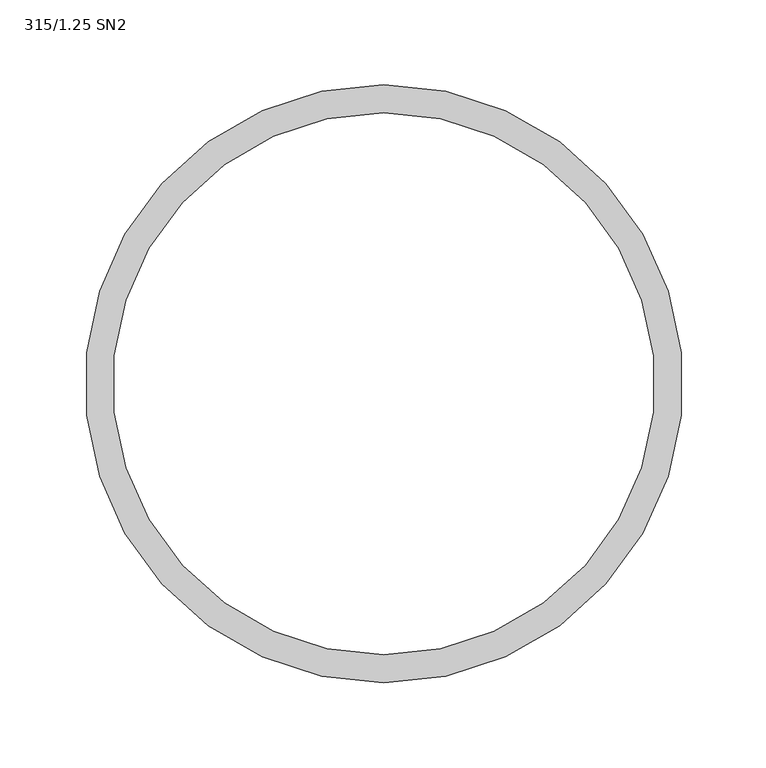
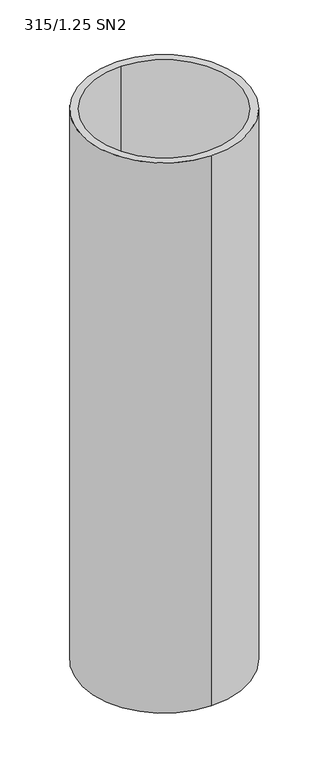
"""IFC4 building model written with IfcOpenShell, lengths in millimetres: valve geometry, Pipelife - Studnia PRO - Rura trzonowa 315 : 315/1.25 SN2."""

import ifcopenshell
import ifcopenshell.guid

model = None  # the IFC model being written
_history = None  # IfcOwnerHistory: only IFC2X3 demands one
_inside = {}  # id of a spatial element -> (the spatial element, [elements in it])
_under = {}  # id of a project, library or spatial element -> (it, [spatial elements below it])
_declared = {}  # id of a project -> (the project, [libraries it declares])
_typed = {}  # id of a type object -> (the type object, [elements of that type])
_made_of = {}  # id of a material, layer set ... -> (it, [elements and type objects made of it])


def new_model(schema):
    """Start an empty IFC model of exactly this schema.

    Asked for "IFC4X3", IfcOpenShell would pick the latest addendum, in which some entities
    have other attributes; the version numbers below select the first issue.
    IFC2X3 requires an IfcOwnerHistory on every rooted entity: one is made here for all.
    """
    global model, _history
    if schema == "IFC4X3":
        model = ifcopenshell.file(schema_version=(4, 3, 0, 0))
    else:
        model = ifcopenshell.file(schema=schema)
    _inside.clear()
    _under.clear()
    _declared.clear()
    _typed.clear()
    _made_of.clear()
    _history = None
    if model.schema == "IFC2X3":
        org = make("IfcOrganization", Name="unknown")
        user = make(
            "IfcPersonAndOrganization",
            ThePerson=make("IfcPerson", FamilyName="unknown"),
            TheOrganization=org,
        )
        app = make(
            "IfcApplication",
            ApplicationDeveloper=org,
            Version="unknown",
            ApplicationFullName="unknown",
            ApplicationIdentifier="unknown",
        )
        _history = make(
            "IfcOwnerHistory",
            OwningUser=user,
            OwningApplication=app,
            ChangeAction="ADDED",
            CreationDate=0,
        )
    return model


def make(cls, **values):
    """One entity of the class cls with the attributes given. An attribute that is None is left unset."""
    return model.create_entity(
        cls, **{name: value for name, value in values.items() if value is not None}
    )


def rooted(cls, **values):
    """An entity with a GlobalId (a new one), such as an element, a storey or a relation."""
    return make(cls, GlobalId=ifcopenshell.guid.new(), OwnerHistory=_history, **values)


def si_unit(unit_type, name, prefix=None):
    """IfcSIUnit, for example si_unit("LENGTHUNIT", "METRE", prefix="MILLI")."""
    return make("IfcSIUnit", UnitType=unit_type, Prefix=prefix, Name=name)


def assignment(units):
    """IfcUnitAssignment: the units of a project."""
    return None if units is None else make("IfcUnitAssignment", Units=units)


def point(xyz):
    """IfcCartesianPoint."""
    return None if xyz is None else make("IfcCartesianPoint", Coordinates=xyz)


def direction(xyz):
    """IfcDirection."""
    return None if xyz is None else make("IfcDirection", DirectionRatios=xyz)


def frame(location, z_axis=None, x_axis=None):
    """IfcAxis2Placement3D, a coordinate frame: its origin and axes. An axis left out is left unset."""
    return make(
        "IfcAxis2Placement3D",
        Location=point(location),
        Axis=direction(z_axis),
        RefDirection=direction(x_axis),
    )


def frame_2d(location, x_axis=None):
    """IfcAxis2Placement2D, a coordinate frame in the plane: its origin and x axis."""
    return make(
        "IfcAxis2Placement2D", Location=point(location), RefDirection=direction(x_axis)
    )


def origin():
    """The frame at (0, 0, 0) with its axes left unset."""
    return frame((0.0, 0.0, 0.0))


def origin_with_axes():
    """The frame at (0, 0, 0) with the z axis (0, 0, 1) and the x axis (1, 0, 0) written out."""
    return frame((0.0, 0.0, 0.0), z_axis=(0.0, 0.0, 1.0), x_axis=(1.0, 0.0, 0.0))


def origin_2d():
    """The frame at (0, 0) in the plane with its x axis left unset."""
    return frame_2d((0.0, 0.0))


def place(relative_to, where):
    """IfcLocalPlacement: puts the frame where relative to a parent placement (None: the world)."""
    return make(
        "IfcLocalPlacement", PlacementRelTo=relative_to, RelativePlacement=where
    )


def context(
    kind, dimensions, precision=None, world=None, true_north=None, identifier=None
):
    """IfcGeometricRepresentationContext, for example the 3D "Model" context."""
    return make(
        "IfcGeometricRepresentationContext",
        ContextIdentifier=identifier,
        ContextType=kind,
        CoordinateSpaceDimension=dimensions,
        Precision=precision,
        WorldCoordinateSystem=world,
        TrueNorth=true_north,
    )


def project(units=None, contexts=None):
    """IfcProject with its units and contexts."""
    return rooted(
        "IfcProject",
        Name="project",
        RepresentationContexts=contexts,
        UnitsInContext=assignment(units),
    )


def spatial(cls, under=None, at=None, **own):
    """A site, building, storey or space (cls), placed at a placement, below another one or the project."""
    s = rooted(cls, ObjectPlacement=at, **own)
    if under is not None:
        _under.setdefault(under.id(), (under, []))[1].append(s)
    return s


def circle_curve(where, radius):
    """IfcCircle in the frame where."""
    return make("IfcCircle", Position=where, Radius=radius)


def trimmed(basis, trim1, trim2, sense, master):
    """IfcTrimmedCurve: the piece of a basis curve between two trims."""
    return make(
        "IfcTrimmedCurve",
        BasisCurve=basis,
        Trim1=trim1,
        Trim2=trim2,
        SenseAgreement=sense,
        MasterRepresentation=master,
    )


def segment(curve, same_sense, transition):
    """IfcCompositeCurveSegment."""
    return make(
        "IfcCompositeCurveSegment",
        Transition=transition,
        SameSense=same_sense,
        ParentCurve=curve,
    )


def composite_curve(segments, self_intersect=None):
    """IfcCompositeCurve: segments joined end to end."""
    return make("IfcCompositeCurve", Segments=segments, SelfIntersect=self_intersect)


def outline(outer, holes=None, kind="AREA"):
    """IfcArbitraryClosedProfileDef: a profile drawn as a closed curve; with holes, ...WithVoids."""
    if holes is None:
        return make("IfcArbitraryClosedProfileDef", ProfileType=kind, OuterCurve=outer)
    return make(
        "IfcArbitraryProfileDefWithVoids",
        ProfileType=kind,
        OuterCurve=outer,
        InnerCurves=holes,
    )


def extrude(swept, where, along, depth):
    """IfcExtrudedAreaSolid: the profile swept, set in the frame where, extruded along a direction by depth."""
    return make(
        "IfcExtrudedAreaSolid",
        SweptArea=swept,
        Position=where,
        ExtrudedDirection=direction(along),
        Depth=depth,
    )


def shape(context_of_items, identifier, shape_type, items):
    """IfcShapeRepresentation: the items that make up one representation, for example the "Body"."""
    return make(
        "IfcShapeRepresentation",
        ContextOfItems=context_of_items,
        RepresentationIdentifier=identifier,
        RepresentationType=shape_type,
        Items=items,
    )


def source(mapping_origin, context_of_items, identifier, shape_type, items):
    """IfcRepresentationMap: a shape defined once, which mapped items show again and again."""
    return make(
        "IfcRepresentationMap",
        MappingOrigin=mapping_origin,
        MappedRepresentation=shape(context_of_items, identifier, shape_type, items),
    )


def transform(
    local_origin,
    x_axis=None,
    y_axis=None,
    z_axis=None,
    scale=None,
    scale2=None,
    scale3=None,
    uniform=True,
):
    """IfcCartesianTransformationOperator3D, or its non-uniform kind. x_axis, y_axis, z_axis: its Axis1, 2, 3."""
    if uniform:
        return make(
            "IfcCartesianTransformationOperator3D",
            Axis1=direction(x_axis),
            Axis2=direction(y_axis),
            LocalOrigin=point(local_origin),
            Scale=scale,
            Axis3=direction(z_axis),
        )
    return make(
        "IfcCartesianTransformationOperator3DnonUniform",
        Axis1=direction(x_axis),
        Axis2=direction(y_axis),
        LocalOrigin=point(local_origin),
        Scale=scale,
        Axis3=direction(z_axis),
        Scale2=scale2,
        Scale3=scale3,
    )


def mapped(mapping_source, mapping_target):
    """IfcMappedItem: shows the shape of a source again, moved by a transform."""
    return make(
        "IfcMappedItem", MappingSource=mapping_source, MappingTarget=mapping_target
    )


def made_of(thing, what):
    """Note that an element or type object is made of a material, layer set ...; save() writes the relation."""
    if what is not None:
        _made_of.setdefault(what.id(), (what, []))[1].append(thing)
    return thing


def element(
    cls,
    number,
    at=None,
    inside=None,
    cuts=None,
    type_object=None,
    material=None,
    context=None,
    identifier="Body",
    shape_type=None,
    held_by="IfcProductDefinitionShape",
    body=None,
    shapes=None,
    **own,
):
    """One element of the class cls, such as IfcWall. Its Tag is "e" and its number.

    at: its placement. inside: the storey or other place that contains it. cuts: it is an
    opening in that element (IfcRelVoidsElement). A single representation is given by context,
    identifier, shape_type and body (its items); several are given by shapes. held_by: the class
    of the entity that holds the representations. save() writes the other relations.
    """
    e = rooted(cls, Tag="e%d" % number, ObjectPlacement=at, **own)
    if body is not None:
        shapes = [shape(context, identifier, shape_type, body)]
    if shapes is not None:
        e.Representation = make(held_by, Representations=shapes)
    if inside is not None:
        _inside.setdefault(inside.id(), (inside, []))[1].append(e)
    if cuts is not None:
        rooted(
            "IfcRelVoidsElement", RelatingBuildingElement=cuts, RelatedOpeningElement=e
        )
    if type_object is not None:
        _typed.setdefault(type_object.id(), (type_object, []))[1].append(e)
    return made_of(e, material)


def aggregate(whole, parts):
    """IfcRelAggregates: a whole, such as a stair, and the parts it consists of."""
    return rooted("IfcRelAggregates", RelatingObject=whole, RelatedObjects=parts)


def save(model, path):
    """Write the relations noted so far, then the file.

    IfcRelAggregates (storeys below a building ...), IfcRelContainedInSpatialStructure (elements
    in a storey), IfcRelDefinesByType, IfcRelAssociatesMaterial and IfcRelDeclares: one each for
    every whole, place, type object, material and project.
    """
    for whole, parts in _under.values():
        aggregate(whole, parts)
    for where, things in _inside.values():
        rooted(
            "IfcRelContainedInSpatialStructure",
            RelatedElements=things,
            RelatingStructure=where,
        )
    for kind, things in _typed.values():
        rooted("IfcRelDefinesByType", RelatedObjects=things, RelatingType=kind)
    for what, things in _made_of.values():
        rooted("IfcRelAssociatesMaterial", RelatedObjects=things, RelatingMaterial=what)
    for by, libraries in _declared.values():
        rooted("IfcRelDeclares", RelatingContext=by, RelatedDefinitions=libraries)
    model.write(path)


def valve_315_1_25_sn2_7f3b5fe2(model_context):
    return source(origin(), model_context, "Body", "SweptSolid", [
        extrude(outline(composite_curve([segment(trimmed(circle_curve(origin_2d(), 176.0), [point((0.0, 176.0))], [point((0.0, -176.0))], False, "CARTESIAN"), True, "CONTINUOUS"), segment(trimmed(circle_curve(origin_2d(), 176.0), [point((0.0, -176.0))], [point((0.0, 176.0))], False, "CARTESIAN"), True, "CONTINUOUS")], self_intersect=False), holes=[composite_curve([segment(trimmed(circle_curve(origin_2d(), 159.5), [point((0.0, 159.5))], [point((0.0, -159.5))], True, "CARTESIAN"), True, "CONTINUOUS"), segment(trimmed(circle_curve(origin_2d(), 159.5), [point((0.0, -159.5))], [point((0.0, 159.5))], True, "CARTESIAN"), True, "CONTINUOUS")], self_intersect=False)]), origin_with_axes(), (0.0, 0.0, 1.0), 1250.0),
    ])


if __name__ == "__main__":
    model = new_model("IFC4")
    model_context = context("Model", 3, world=origin())
    ifc_project = project(units=[si_unit("LENGTHUNIT", "METRE", prefix="MILLI")], contexts=[model_context])
    site = spatial("IfcSite", under=ifc_project)
    building = spatial("IfcBuilding", under=site)
    placement = place(None, origin())
    valve_315_1_25_sn2_shape = valve_315_1_25_sn2_7f3b5fe2(model_context)
    element("IfcValve", 1, ObjectType="Pipelife - Studnia PRO - Rura trzonowa 315 : 315/1.25 SN2", at=placement, inside=building, context=model_context, shape_type="MappedRepresentation", body=[
        mapped(valve_315_1_25_sn2_shape, transform((0.0, 0.0, 0.0), x_axis=(1.0, 0.0, 0.0), y_axis=(0.0, 1.0, 0.0), z_axis=(0.0, 0.0, 1.0))),
    ])
    save(model, "model.ifc")
